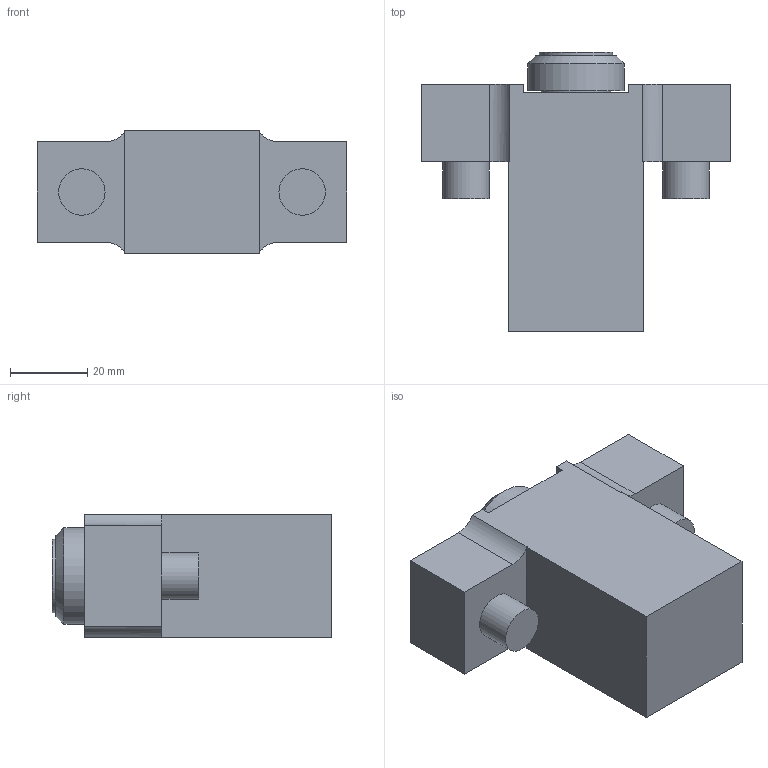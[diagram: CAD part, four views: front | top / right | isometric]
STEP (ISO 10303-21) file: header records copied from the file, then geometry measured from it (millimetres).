
FILE_DESCRIPTION (( 'STEP AP214' ), '1' );
FILE_NAME ('82586.STEP', '2022-09-02T11:31:20', ( '' ), ( '' ), 'SwSTEP 2.0', 'SolidWorks 2021', '' );
FILE_SCHEMA (( 'AUTOMOTIVE_DESIGN' ));
Length unit declared in the file: millimetre
Products named in the file (3): 82586; 81520; 82586-01
Assembly tree (2 placements, depth 2):
  82586
    82586-01
    81520
Bounding box: 80 x 72.4 x 32 mm (x, y, z)
Volume: 100443.5 mm3; surface area: 17990.9 mm2
Topology: 2 solids, 2 shells, 43 faces, 95 edges, 62 vertices
Faces by surface type: plane 30, cylinder 11, cone 2
Full cylindrical faces by diameter (mm): 10.2 x1, 12 x3, 18 x1, 19 x1, 25 x1
Entity records: 1309 total; most frequent: DIRECTION 208, CARTESIAN_POINT 192, ORIENTED_EDGE 168, EDGE_CURVE 84, AXIS2_PLACEMENT_3D 76, VERTEX_POINT 60, EDGE_LOOP 58, LINE 56
